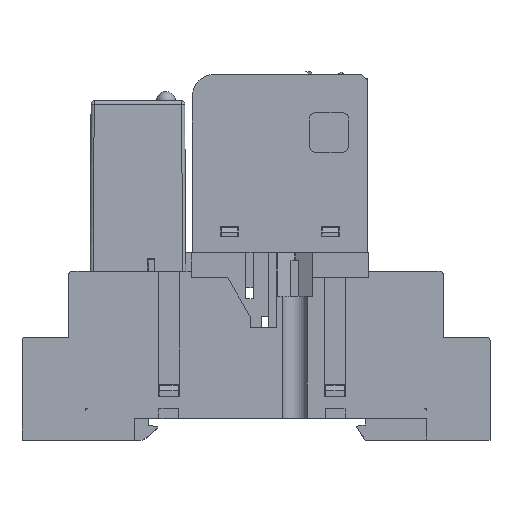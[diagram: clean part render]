
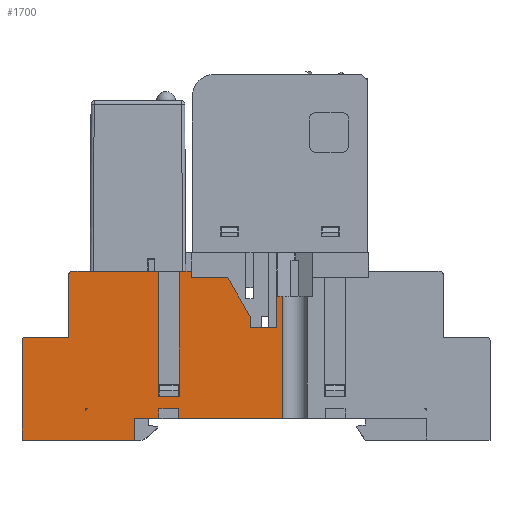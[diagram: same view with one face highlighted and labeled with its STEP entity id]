
A CAD part, top view. The second image highlights one B-rep face of the part: STEP entity #1700.
In plain terms, the highlighted planar face has unit normal (0, 0, 1).
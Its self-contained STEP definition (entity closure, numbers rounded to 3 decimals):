
#1700=ADVANCED_FACE('',(#33151,#33153),#33155,.T.);
#33151=FACE_BOUND('',#33152,.T.);
#33152=EDGE_LOOP('',(#62878,#62879,#62880,#62881,#62882,#62883,#62884,#62885,#62886,
#62887,#62888,#62889,#62890,#62891,#62892,#62893,#62894,#62895,#62896,#62897,#62898,
#62899,#62900,#62901,#62902));
#33153=FACE_BOUND('',#33154,.T.);
#33154=EDGE_LOOP('',(#62903,#62904,#62905));
#33155=PLANE('',#33156);
#33156=AXIS2_PLACEMENT_3D('',#33157,#33158,#33159);
#33157=CARTESIAN_POINT('',(-43.65,0.,15.));
#33158=DIRECTION('',(0.,0.,1.));
#33159=DIRECTION('',(1.,0.,0.));
#62878=ORIENTED_EDGE('',*,*,#81800,.T.);
#62879=ORIENTED_EDGE('',*,*,#81801,.T.);
#62880=ORIENTED_EDGE('',*,*,#81802,.T.);
#62881=ORIENTED_EDGE('',*,*,#81393,.F.);
#62882=ORIENTED_EDGE('',*,*,#81799,.F.);
#62883=ORIENTED_EDGE('',*,*,#81803,.T.);
#62884=ORIENTED_EDGE('',*,*,#81804,.T.);
#62885=ORIENTED_EDGE('',*,*,#81805,.F.);
#62886=ORIENTED_EDGE('',*,*,#81806,.F.);
#62887=ORIENTED_EDGE('',*,*,#81807,.T.);
#62888=ORIENTED_EDGE('',*,*,#81808,.T.);
#62889=ORIENTED_EDGE('',*,*,#81809,.F.);
#62890=ORIENTED_EDGE('',*,*,#81810,.T.);
#62891=ORIENTED_EDGE('',*,*,#81811,.T.);
#62892=ORIENTED_EDGE('',*,*,#81812,.T.);
#62893=ORIENTED_EDGE('',*,*,#81813,.F.);
#62894=ORIENTED_EDGE('',*,*,#81814,.T.);
#62895=ORIENTED_EDGE('',*,*,#81815,.F.);
#62896=ORIENTED_EDGE('',*,*,#81816,.T.);
#62897=ORIENTED_EDGE('',*,*,#81817,.T.);
#62898=ORIENTED_EDGE('',*,*,#81818,.T.);
#62899=ORIENTED_EDGE('',*,*,#81819,.T.);
#62900=ORIENTED_EDGE('',*,*,#81820,.T.);
#62901=ORIENTED_EDGE('',*,*,#81821,.T.);
#62902=ORIENTED_EDGE('',*,*,#81397,.F.);
#62903=ORIENTED_EDGE('',*,*,#81822,.T.);
#62904=ORIENTED_EDGE('',*,*,#81823,.T.);
#62905=ORIENTED_EDGE('',*,*,#81824,.F.);
#81393=EDGE_CURVE('',#91304,#91306,#91307,.T.);
#81397=EDGE_CURVE('',#91312,#91314,#91315,.T.);
#81799=EDGE_CURVE('',#92005,#91304,#92007,.F.);
#81800=EDGE_CURVE('',#91312,#92008,#92009,.F.);
#81801=EDGE_CURVE('',#92008,#92010,#92011,.F.);
#81802=EDGE_CURVE('',#92010,#91306,#92012,.F.);
#81803=EDGE_CURVE('',#92005,#92013,#92014,.F.);
#81804=EDGE_CURVE('',#92013,#92015,#92016,.T.);
#81805=EDGE_CURVE('',#92017,#92015,#92018,.F.);
#81806=EDGE_CURVE('',#92019,#92017,#92020,.T.);
#81807=EDGE_CURVE('',#92019,#92021,#92022,.T.);
#81808=EDGE_CURVE('',#92021,#92023,#92024,.T.);
#81809=EDGE_CURVE('',#92025,#92023,#92026,.T.);
#81810=EDGE_CURVE('',#92025,#92027,#92028,.F.);
#81811=EDGE_CURVE('',#92027,#92029,#92030,.F.);
#81812=EDGE_CURVE('',#92029,#92031,#92032,.F.);
#81813=EDGE_CURVE('',#92033,#92031,#92034,.T.);
#81814=EDGE_CURVE('',#92033,#92035,#92036,.T.);
#81815=EDGE_CURVE('',#92037,#92035,#92038,.T.);
#81816=EDGE_CURVE('',#92037,#92039,#92040,.F.);
#81817=EDGE_CURVE('',#92039,#92041,#92042,.F.);
#81818=EDGE_CURVE('',#92041,#92043,#92044,.F.);
#81819=EDGE_CURVE('',#92043,#92045,#92046,.F.);
#81820=EDGE_CURVE('',#92045,#92047,#92048,.F.);
#81821=EDGE_CURVE('',#92047,#91314,#92049,.F.);
#81822=EDGE_CURVE('',#92050,#92051,#92052,.F.);
#81823=EDGE_CURVE('',#92051,#92053,#92054,.F.);
#81824=EDGE_CURVE('',#92050,#92053,#92055,.F.);
#91304=VERTEX_POINT('',#107916);
#91306=VERTEX_POINT('',#107920);
#91307=LINE('',#107921,#107922);
#91312=VERTEX_POINT('',#107932);
#91314=VERTEX_POINT('',#107936);
#91315=LINE('',#107937,#107938);
#92005=VERTEX_POINT('',#109475);
#92007=CIRCLE('',#109479,0.5);
#92008=VERTEX_POINT('',#109483);
#92009=LINE('',#109484,#109485);
#92010=VERTEX_POINT('',#109487);
#92011=LINE('',#109488,#109489);
#92012=LINE('',#109491,#109492);
#92013=VERTEX_POINT('',#109494);
#92014=LINE('',#109495,#109496);
#92015=VERTEX_POINT('',#109498);
#92016=LINE('',#109499,#109500);
#92017=VERTEX_POINT('',#109502);
#92018=CIRCLE('',#109503,0.5);
#92019=VERTEX_POINT('',#109507);
#92020=LINE('',#109508,#109509);
#92021=VERTEX_POINT('',#109511);
#92022=LINE('',#109512,#109513);
#92023=VERTEX_POINT('',#109515);
#92024=LINE('',#109516,#109517);
#92025=VERTEX_POINT('',#109519);
#92026=LINE('',#109520,#109521);
#92027=VERTEX_POINT('',#109523);
#92028=LINE('',#109524,#109525);
#92029=VERTEX_POINT('',#109527);
#92030=LINE('',#109528,#109529);
#92031=VERTEX_POINT('',#109531);
#92032=LINE('',#109532,#109533);
#92033=VERTEX_POINT('',#109535);
#92034=LINE('',#109536,#109537);
#92035=VERTEX_POINT('',#109539);
#92036=LINE('',#109540,#109541);
#92037=VERTEX_POINT('',#109543);
#92038=LINE('',#109544,#109545);
#92039=VERTEX_POINT('',#109547);
#92040=LINE('',#109548,#109549);
#92041=VERTEX_POINT('',#109551);
#92042=LINE('',#109552,#109553);
#92043=VERTEX_POINT('',#109555);
#92044=LINE('',#109556,#109557);
#92045=VERTEX_POINT('',#109559);
#92046=LINE('',#109560,#109561);
#92047=VERTEX_POINT('',#109563);
#92048=LINE('',#109564,#109565);
#92049=LINE('',#109567,#109568);
#92050=VERTEX_POINT('',#109570);
#92051=VERTEX_POINT('',#109571);
#92052=LINE('',#109572,#109573);
#92053=VERTEX_POINT('',#109575);
#92054=LINE('',#109576,#109577);
#92055=CIRCLE('',#109579,0.3);
#107916=CARTESIAN_POINT('',(-35.65,27.,15.));
#107920=CARTESIAN_POINT('',(-21.85,27.,15.));
#107921=CARTESIAN_POINT('',(-35.65,27.,15.));
#107922=VECTOR('',#107923,1.);
#107923=DIRECTION('',(1.,0.,0.));
#107932=CARTESIAN_POINT('',(-18.45,27.,15.));
#107936=CARTESIAN_POINT('',(-16.55,27.,15.));
#107937=CARTESIAN_POINT('',(-18.45,27.,15.));
#107938=VECTOR('',#107939,1.);
#107939=DIRECTION('',(1.,0.,0.));
#109475=CARTESIAN_POINT('',(-36.15,26.5,15.));
#109479=AXIS2_PLACEMENT_3D('',#109480,#109481,#109482);
#109480=CARTESIAN_POINT('',(-35.65,26.5,15.));
#109481=DIRECTION('',(0.,-0.,1.));
#109482=DIRECTION('',(0.,1.,0.));
#109483=CARTESIAN_POINT('',(-18.45,7.,15.));
#109484=CARTESIAN_POINT('',(-18.45,7.,15.));
#109485=VECTOR('',#109486,1.);
#109486=DIRECTION('',(0.,1.,0.));
#109487=CARTESIAN_POINT('',(-21.85,7.,15.));
#109488=CARTESIAN_POINT('',(-21.85,7.,15.));
#109489=VECTOR('',#109490,1.);
#109490=DIRECTION('',(1.,0.,0.));
#109491=CARTESIAN_POINT('',(-21.85,27.,15.));
#109492=VECTOR('',#109493,1.);
#109493=DIRECTION('',(0.,-1.,0.));
#109494=CARTESIAN_POINT('',(-36.15,16.5,15.));
#109495=CARTESIAN_POINT('',(-36.15,16.5,15.));
#109496=VECTOR('',#109497,1.);
#109497=DIRECTION('',(0.,1.,0.));
#109498=CARTESIAN_POINT('',(-43.15,16.5,15.));
#109499=CARTESIAN_POINT('',(-36.15,16.5,15.));
#109500=VECTOR('',#109501,1.);
#109501=DIRECTION('',(-1.,0.,0.));
#109502=CARTESIAN_POINT('',(-43.65,16.,15.));
#109503=AXIS2_PLACEMENT_3D('',#109504,#109505,#109506);
#109504=CARTESIAN_POINT('',(-43.15,16.,15.));
#109505=DIRECTION('',(0.,-0.,1.));
#109506=DIRECTION('',(0.,1.,0.));
#109507=CARTESIAN_POINT('',(-43.65,0.,15.));
#109508=CARTESIAN_POINT('',(-43.65,0.,15.));
#109509=VECTOR('',#109510,1.);
#109510=DIRECTION('',(0.,1.,0.));
#109511=CARTESIAN_POINT('',(-25.65,0.,15.));
#109512=CARTESIAN_POINT('',(-43.65,0.,15.));
#109513=VECTOR('',#109514,1.);
#109514=DIRECTION('',(1.,0.,0.));
#109515=CARTESIAN_POINT('',(-25.65,3.5,15.));
#109516=CARTESIAN_POINT('',(-25.65,0.,15.));
#109517=VECTOR('',#109518,1.);
#109518=DIRECTION('',(0.,1.,0.));
#109519=CARTESIAN_POINT('',(-21.75,3.5,15.));
#109520=CARTESIAN_POINT('',(-21.75,3.5,15.));
#109521=VECTOR('',#109522,1.);
#109522=DIRECTION('',(-1.,0.,0.));
#109523=CARTESIAN_POINT('',(-21.75,5.,15.));
#109524=CARTESIAN_POINT('',(-21.75,5.,15.));
#109525=VECTOR('',#109526,1.);
#109526=DIRECTION('',(0.,-1.,0.));
#109527=CARTESIAN_POINT('',(-18.55,5.,15.));
#109528=CARTESIAN_POINT('',(-18.55,5.,15.));
#109529=VECTOR('',#109530,1.);
#109530=DIRECTION('',(-1.,0.,0.));
#109531=CARTESIAN_POINT('',(-18.55,3.5,15.));
#109532=CARTESIAN_POINT('',(-18.55,3.5,15.));
#109533=VECTOR('',#109534,1.);
#109534=DIRECTION('',(0.,1.,0.));
#109535=CARTESIAN_POINT('',(-2.,3.5,15.));
#109536=CARTESIAN_POINT('',(-2.,3.5,15.));
#109537=VECTOR('',#109538,1.);
#109538=DIRECTION('',(-1.,0.,0.));
#109539=CARTESIAN_POINT('',(-2.,23.,15.));
#109540=CARTESIAN_POINT('',(-2.,3.5,15.));
#109541=VECTOR('',#109542,1.);
#109542=DIRECTION('',(0.,1.,0.));
#109543=CARTESIAN_POINT('',(-2.9,23.,15.));
#109544=CARTESIAN_POINT('',(-2.9,23.,15.));
#109545=VECTOR('',#109546,1.);
#109546=DIRECTION('',(1.,0.,0.));
#109547=CARTESIAN_POINT('',(-2.9,18.,15.));
#109548=CARTESIAN_POINT('',(-2.9,18.,15.));
#109549=VECTOR('',#109550,1.);
#109550=DIRECTION('',(0.,1.,0.));
#109551=CARTESIAN_POINT('',(-7.15,18.,15.));
#109552=CARTESIAN_POINT('',(-7.15,18.,15.));
#109553=VECTOR('',#109554,1.);
#109554=DIRECTION('',(1.,0.,0.));
#109555=CARTESIAN_POINT('',(-7.15,19.8,15.));
#109556=CARTESIAN_POINT('',(-7.15,19.8,15.));
#109557=VECTOR('',#109558,1.);
#109558=DIRECTION('',(0.,-1.,0.));
#109559=CARTESIAN_POINT('',(-10.73,26.,15.));
#109560=CARTESIAN_POINT('',(-10.73,26.,15.));
#109561=VECTOR('',#109562,1.);
#109562=DIRECTION('',(0.5,-0.866,0.));
#109563=CARTESIAN_POINT('',(-16.55,26.,15.));
#109564=CARTESIAN_POINT('',(-16.55,26.,15.));
#109565=VECTOR('',#109566,1.);
#109566=DIRECTION('',(1.,0.,0.));
#109567=CARTESIAN_POINT('',(-16.55,27.,15.));
#109568=VECTOR('',#109569,1.);
#109569=DIRECTION('',(0.,-1.,0.));
#109570=CARTESIAN_POINT('',(-33.45,4.7,15.));
#109571=CARTESIAN_POINT('',(-33.45,5.,15.));
#109572=CARTESIAN_POINT('',(-33.45,5.,15.));
#109573=VECTOR('',#109574,1.);
#109574=DIRECTION('',(0.,-1.,0.));
#109575=CARTESIAN_POINT('',(-33.15,5.,15.));
#109576=CARTESIAN_POINT('',(-33.15,5.,15.));
#109577=VECTOR('',#109578,1.);
#109578=DIRECTION('',(-1.,0.,0.));
#109579=AXIS2_PLACEMENT_3D('',#109580,#109581,#109582);
#109580=CARTESIAN_POINT('',(-33.15,4.7,15.));
#109581=DIRECTION('',(0.,-0.,1.));
#109582=DIRECTION('',(0.,1.,0.));
